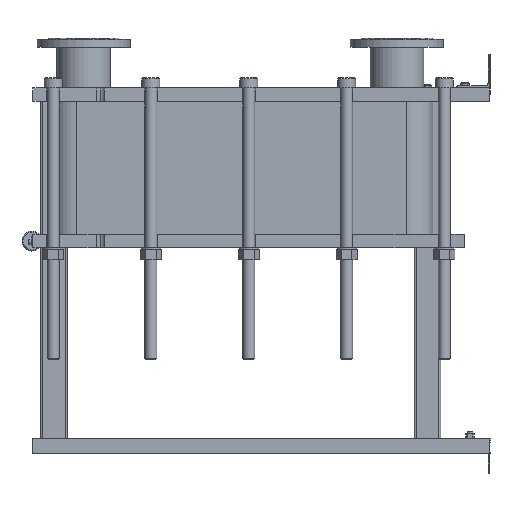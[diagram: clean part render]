
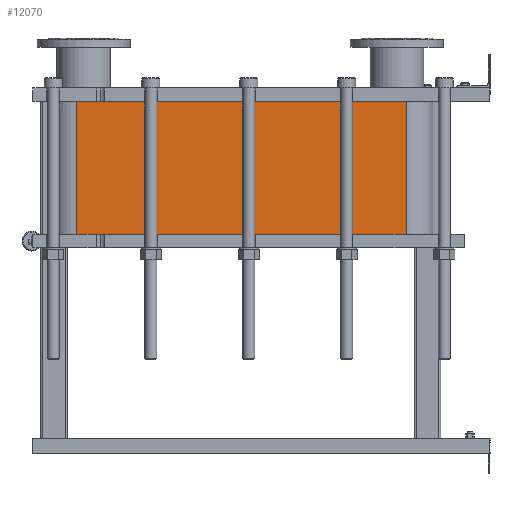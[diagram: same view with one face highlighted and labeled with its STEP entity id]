
A CAD part, left-side view. The second image highlights one B-rep face of the part: STEP entity #12070.
In plain terms, the highlighted planar face has unit normal (-1, 0, 0).
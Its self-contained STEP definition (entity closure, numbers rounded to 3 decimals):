
#1064=LINE('',#21140,#2164);
#1065=LINE('',#21144,#2165);
#1066=LINE('',#21146,#2166);
#1067=LINE('',#21147,#2167);
#2164=VECTOR('',#15790,10.);
#2165=VECTOR('',#15795,10.);
#2166=VECTOR('',#15796,10.);
#2167=VECTOR('',#15797,10.);
#3304=FACE_OUTER_BOUND('',#4091,.T.);
#4091=EDGE_LOOP('',(#9793,#9794,#9795,#9796));
#5677=VERTEX_POINT('',#21137);
#5678=VERTEX_POINT('',#21139);
#5679=VERTEX_POINT('',#21143);
#5680=VERTEX_POINT('',#21145);
#7118=EDGE_CURVE('',#5678,#5677,#1064,.T.);
#7120=EDGE_CURVE('',#5677,#5679,#1065,.T.);
#7121=EDGE_CURVE('',#5680,#5679,#1066,.T.);
#7122=EDGE_CURVE('',#5680,#5678,#1067,.T.);
#9793=ORIENTED_EDGE('',*,*,#7120,.T.);
#9794=ORIENTED_EDGE('',*,*,#7121,.F.);
#9795=ORIENTED_EDGE('',*,*,#7122,.T.);
#9796=ORIENTED_EDGE('',*,*,#7118,.T.);
#11441=PLANE('',#13191);
#12070=ADVANCED_FACE('',(#3304),#11441,.T.);
#13191=AXIS2_PLACEMENT_3D('',#21142,#15793,#15794);
#15790=DIRECTION('',(0.,0.,-1.));
#15793=DIRECTION('center_axis',(-1.,0.,0.));
#15794=DIRECTION('ref_axis',(0.,1.,0.));
#15795=DIRECTION('',(0.,-1.,0.));
#15796=DIRECTION('',(0.,0.,-1.));
#15797=DIRECTION('',(0.,1.,0.));
#21137=CARTESIAN_POINT('',(-248.152,1243.818,-400.2));
#21139=CARTESIAN_POINT('',(-248.152,1243.818,0.));
#21140=CARTESIAN_POINT('',(-248.152,1243.818,0.));
#21142=CARTESIAN_POINT('Origin',(-248.152,251.818,0.));
#21143=CARTESIAN_POINT('',(-248.152,251.818,-400.2));
#21144=CARTESIAN_POINT('',(-248.152,499.818,-400.2));
#21145=CARTESIAN_POINT('',(-248.152,251.818,0.));
#21146=CARTESIAN_POINT('',(-248.152,251.818,0.));
#21147=CARTESIAN_POINT('',(-248.152,251.818,0.));
